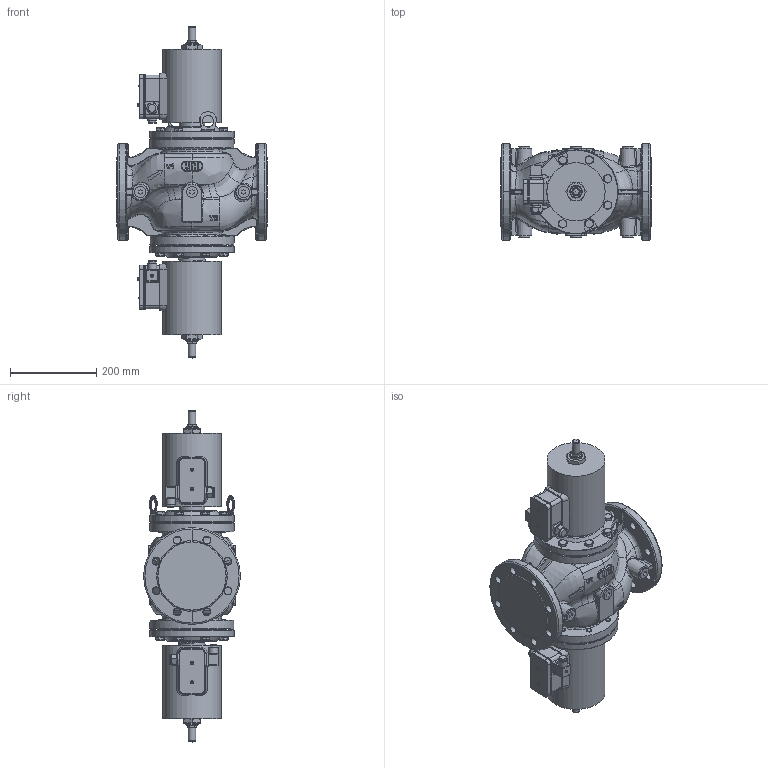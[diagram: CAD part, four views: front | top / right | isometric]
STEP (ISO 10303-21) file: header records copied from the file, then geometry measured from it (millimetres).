
FILE_DESCRIPTION((''),'2;1');
FILE_NAME('G:\CAD-Download\VX\VX 100\VX 100.stp','2010-09-08T11:44:39',('da'),(''),'Autodesk Inventor 2008','Autodesk Inventor 2008','');
FILE_SCHEMA(('AUTOMOTIVE_DESIGN { 1 0 10303 214 1 1 1 1 }'));
Length unit declared in the file: millimetre
Products named in the file (1): Bauteil2
Bounding box: 350 x 224 x 770.01 mm (x, y, z)
Volume: 16857542.5 mm3; surface area: 1291525.6 mm2
Topology: 2 solids, 5 shells, 3114 faces, 8115 edges, 5189 vertices
Faces by surface type: plane 1397, bspline 844, cylinder 385, cone 325, torus 149, sphere 14
Full cylindrical faces by diameter (mm): 3.5 x2, 3.6 x2, 4.11 x8, 5 x6, 5.5 x2, 6 x4, 6.4 x2, 6.9 x2, 7.4 x2, 7.6 x2, 8 x2, 12 x24, 14 x2, 16.63 x16, 17 x2, 18 x8, 20 x2, 21.5 x2, 23.713 x2, 26 x6, 28 x2, 54 x2, 60 x2, 110 x2, 111 x4, 118 x4, 118.6 x4, 125 x2, 134.9 x2, 135 x2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
Entity records: 275816 total; most frequent: CARTESIAN_POINT 206104, ORIENTED_EDGE 15552, DIRECTION 11299, EDGE_CURVE 7776, VERTEX_POINT 5097, AXIS2_PLACEMENT_3D 4036, EDGE_LOOP 3687, VECTOR 3227
